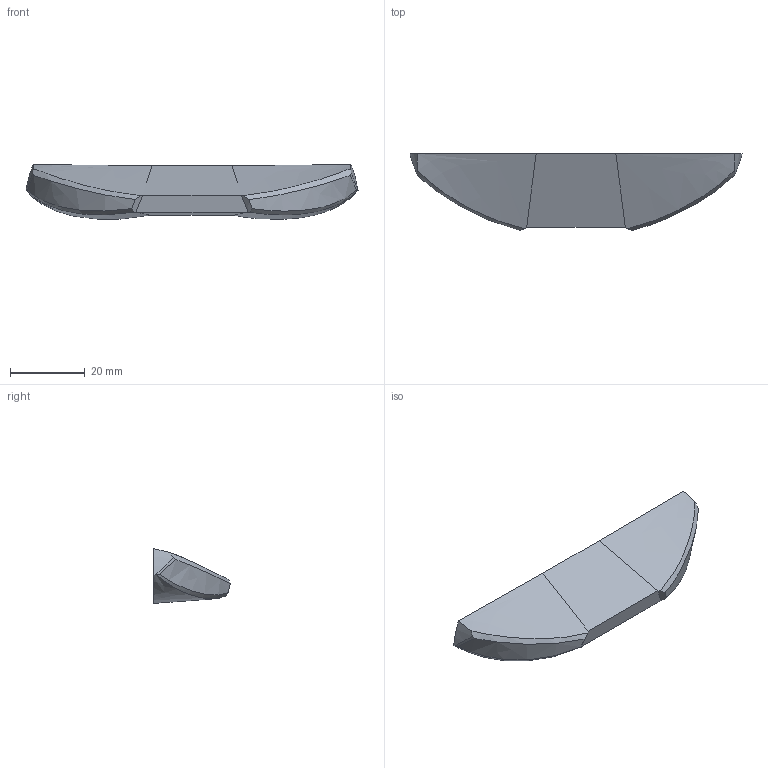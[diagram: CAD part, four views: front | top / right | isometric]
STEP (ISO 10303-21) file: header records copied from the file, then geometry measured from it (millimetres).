
FILE_DESCRIPTION(/* description */ ('STEP AP242','CAx-IF Rec.Pracs.---Representation and Presentation of Product Manufacturing Information (PMI)---4.0---2014-10-13','CAx-IF Rec.Pracs.---3D Tessellated Geometry---0.4---2014-09-14','2;1'),/* implementation_level */ '2;1');
FILE_NAME(/* name */ '6856aa2e8a3a8d47ea07ba41',/* time_stamp */ '2025-06-21T12:48:47Z',/* author */ (''),/* organization */ (''),/* preprocessor_version */ 'ST-DEVELOPER v20',/* originating_system */ 'ONSHAPE BY PTC INC, 1.199',/* authorisation */ ' ');
FILE_SCHEMA (('AP242_MANAGED_MODEL_BASED_3D_ENGINEERING_MIM_LF { 1 0 10303 442 1 1 4 }'));
Length unit declared in the file: metre
Products named in the file (1): Augenpartie Innen
Bounding box: 89.09 x 20.54 x 14.7 mm (x, y, z)
Volume: 13194.8 mm3; surface area: 4637.9 mm2
Topology: 1 solids, 1 shells, 20 faces, 53 edges, 32 vertices
Faces by surface type: bspline 16, plane 4
Entity records: 1309 total; most frequent: CARTESIAN_POINT 940, ORIENTED_EDGE 100, EDGE_CURVE 50, B_SPLINE_CURVE_WITH_KNOTS 42, VERTEX_POINT 32, EDGE_LOOP 20, FACE_BOUND 20, ADVANCED_FACE 20
